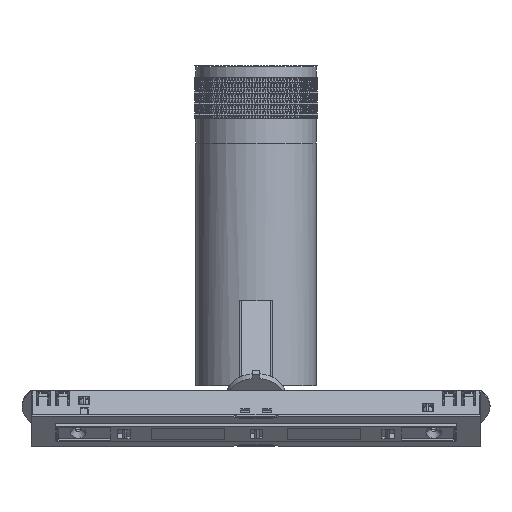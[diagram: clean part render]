
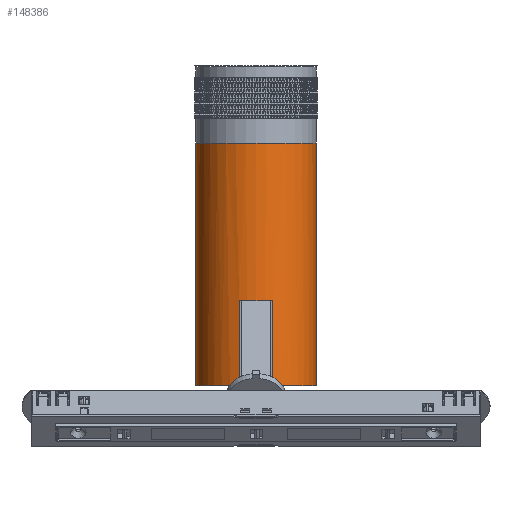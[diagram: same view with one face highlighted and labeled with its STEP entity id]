
A CAD part, front view. The second image highlights one B-rep face of the part: STEP entity #148386.
In plain terms, the highlighted cylindrical face has radius 24.75 mm (diameter 49.5 mm), a partial arc.
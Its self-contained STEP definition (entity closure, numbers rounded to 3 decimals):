
#908 = CARTESIAN_POINT ( 'NONE',  ( 0., 0., -50. ) ) ;
#1681 = CIRCLE ( 'NONE', #57414, 24.75 ) ;
#10479 = LINE ( 'NONE', #110710, #53496 ) ;
#27677 = CARTESIAN_POINT ( 'NONE',  ( 7., -23.739, -15. ) ) ;
#38241 = LINE ( 'NONE', #138467, #225778 ) ;
#45100 = ORIENTED_EDGE ( 'NONE', *, *, #208542, .T. ) ;
#45284 = CARTESIAN_POINT ( 'NONE',  ( 7., -23.739, -50. ) ) ;
#53496 = VECTOR ( 'NONE', #211048, 1000. ) ;
#57414 = AXIS2_PLACEMENT_3D ( 'NONE', #294816, #69858, #170120 ) ;
#57588 = DIRECTION ( 'NONE',  ( 1., 0., 0. ) ) ;
#59202 = EDGE_CURVE ( 'NONE', #86164, #131404, #261968, .T. ) ;
#61324 = ORIENTED_EDGE ( 'NONE', *, *, #238336, .T. ) ;
#68133 = DIRECTION ( 'NONE',  ( 1., 0., 0. ) ) ;
#69858 = DIRECTION ( 'NONE',  ( 0., 0., -1. ) ) ;
#73933 = VERTEX_POINT ( 'NONE', #97633 ) ;
#74884 = EDGE_CURVE ( 'NONE', #293019, #76131, #270359, .T. ) ;
#76131 = VERTEX_POINT ( 'NONE', #136751 ) ;
#80193 = EDGE_CURVE ( 'NONE', #285372, #293019, #144112, .T. ) ;
#82338 = CARTESIAN_POINT ( 'NONE',  ( 24.75, 0., 50. ) ) ;
#83585 = EDGE_LOOP ( 'NONE', ( #298754, #95868, #149898, #84077, #306738, #61324, #309661, #45100 ) ) ;
#84077 = ORIENTED_EDGE ( 'NONE', *, *, #80193, .T. ) ;
#86164 = VERTEX_POINT ( 'NONE', #87213 ) ;
#87213 = CARTESIAN_POINT ( 'NONE',  ( -24.75, 0., -50. ) ) ;
#87782 = EDGE_CURVE ( 'NONE', #73933, #239710, #10479, .T. ) ;
#95868 = ORIENTED_EDGE ( 'NONE', *, *, #59202, .T. ) ;
#97633 = CARTESIAN_POINT ( 'NONE',  ( 24.75, 0., -50. ) ) ;
#101179 = DIRECTION ( 'NONE',  ( 0., 0., 1. ) ) ;
#103898 = AXIS2_PLACEMENT_3D ( 'NONE', #908, #101179, #201471 ) ;
#106850 = CARTESIAN_POINT ( 'NONE',  ( 0., 0., -15. ) ) ;
#107138 = CARTESIAN_POINT ( 'NONE',  ( -7., -23.739, -50. ) ) ;
#110710 = CARTESIAN_POINT ( 'NONE',  ( 24.75, 0., -50. ) ) ;
#114748 = CIRCLE ( 'NONE', #298236, 24.75 ) ;
#115462 = CARTESIAN_POINT ( 'NONE',  ( -24.75, 0., -50. ) ) ;
#117384 = CARTESIAN_POINT ( 'NONE',  ( 0., 0., -50. ) ) ;
#120230 = AXIS2_PLACEMENT_3D ( 'NONE', #198841, #124806, #225115 ) ;
#124806 = DIRECTION ( 'NONE',  ( 0., 0., 1. ) ) ;
#125814 = FACE_OUTER_BOUND ( 'NONE', #83585, .T. ) ;
#131404 = VERTEX_POINT ( 'NONE', #107138 ) ;
#136751 = CARTESIAN_POINT ( 'NONE',  ( 7., -23.739, -50. ) ) ;
#138467 = CARTESIAN_POINT ( 'NONE',  ( -7., -23.739, -50. ) ) ;
#144112 = CIRCLE ( 'NONE', #186193, 24.75 ) ;
#145508 = DIRECTION ( 'NONE',  ( 0., 0., -1. ) ) ;
#148386 = ADVANCED_FACE ( 'NONE', ( #125814 ), #226132, .T. ) ;
#149898 = ORIENTED_EDGE ( 'NONE', *, *, #315341, .T. ) ;
#170120 = DIRECTION ( 'NONE',  ( 1., 0., 0. ) ) ;
#173598 = VERTEX_POINT ( 'NONE', #217667 ) ;
#186193 = AXIS2_PLACEMENT_3D ( 'NONE', #106850, #282604, #57588 ) ;
#188522 = VECTOR ( 'NONE', #215789, 1000. ) ;
#198841 = CARTESIAN_POINT ( 'NONE',  ( 0., 0., -50. ) ) ;
#201471 = DIRECTION ( 'NONE',  ( 1., 0., 0. ) ) ;
#202112 = VECTOR ( 'NONE', #145508, 1000. ) ;
#208542 = EDGE_CURVE ( 'NONE', #239710, #173598, #1681, .T. ) ;
#211048 = DIRECTION ( 'NONE',  ( 0., 0., 1. ) ) ;
#215789 = DIRECTION ( 'NONE',  ( 0., 0., 1. ) ) ;
#217667 = CARTESIAN_POINT ( 'NONE',  ( -24.75, 0., 50. ) ) ;
#225115 = DIRECTION ( 'NONE',  ( 1., 0., 0. ) ) ;
#225778 = VECTOR ( 'NONE', #238742, 1000. ) ;
#226132 = CYLINDRICAL_SURFACE ( 'NONE', #103898, 24.75 ) ;
#238336 = EDGE_CURVE ( 'NONE', #76131, #73933, #114748, .T. ) ;
#238742 = DIRECTION ( 'NONE',  ( 0., 0., 1. ) ) ;
#239710 = VERTEX_POINT ( 'NONE', #82338 ) ;
#240146 = EDGE_CURVE ( 'NONE', #86164, #173598, #265032, .T. ) ;
#251627 = CARTESIAN_POINT ( 'NONE',  ( -7., -23.739, -15. ) ) ;
#261968 = CIRCLE ( 'NONE', #120230, 24.75 ) ;
#265032 = LINE ( 'NONE', #115462, #188522 ) ;
#270359 = LINE ( 'NONE', #45284, #202112 ) ;
#282604 = DIRECTION ( 'NONE',  ( 0., 0., 1. ) ) ;
#285372 = VERTEX_POINT ( 'NONE', #251627 ) ;
#293019 = VERTEX_POINT ( 'NONE', #27677 ) ;
#293089 = DIRECTION ( 'NONE',  ( 0., 0., 1. ) ) ;
#294816 = CARTESIAN_POINT ( 'NONE',  ( 0., 0., 50. ) ) ;
#298236 = AXIS2_PLACEMENT_3D ( 'NONE', #117384, #293089, #68133 ) ;
#298754 = ORIENTED_EDGE ( 'NONE', *, *, #240146, .F. ) ;
#306738 = ORIENTED_EDGE ( 'NONE', *, *, #74884, .T. ) ;
#309661 = ORIENTED_EDGE ( 'NONE', *, *, #87782, .T. ) ;
#315341 = EDGE_CURVE ( 'NONE', #131404, #285372, #38241, .T. ) ;
